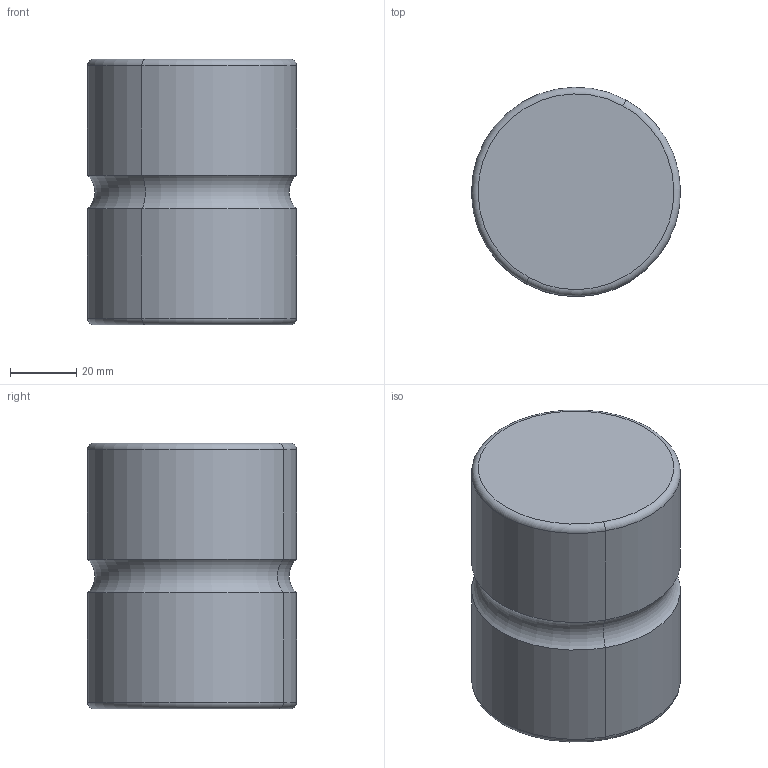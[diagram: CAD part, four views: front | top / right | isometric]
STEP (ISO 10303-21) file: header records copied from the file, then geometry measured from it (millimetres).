
FILE_DESCRIPTION(('CATIA V5 STEP Exchange'),'2;1');
FILE_NAME('C:\Users\d.catalano\Desktop\CATALOGO CAD\04 MOLLE\A519\A519-63.stp','2021-11-26T14:59:55+00:00',('none'),('none'),'CATIA Version 5 Release 19 SP 3 (IN-10)','CATIA V5 STEP AP203','none');
FILE_SCHEMA(('CONFIG_CONTROL_DESIGN'));
Length unit declared in the file: millimetre
Products named in the file (1): A519-63
Bounding box: 62.98 x 62.98 x 80 mm (x, y, z)
Volume: 246066 mm3; surface area: 21862.8 mm2
Topology: 1 solids, 1 shells, 12 faces, 22 edges, 12 vertices
Faces by surface type: torus 6, cylinder 4, plane 2
Entity records: 294 total; most frequent: ORIENTED_EDGE 44, CARTESIAN_POINT 41, DIRECTION 34, AXIS2_PLACEMENT_3D 25, EDGE_CURVE 22, CIRCLE 18, ADVANCED_FACE 12, EDGE_LOOP 12
